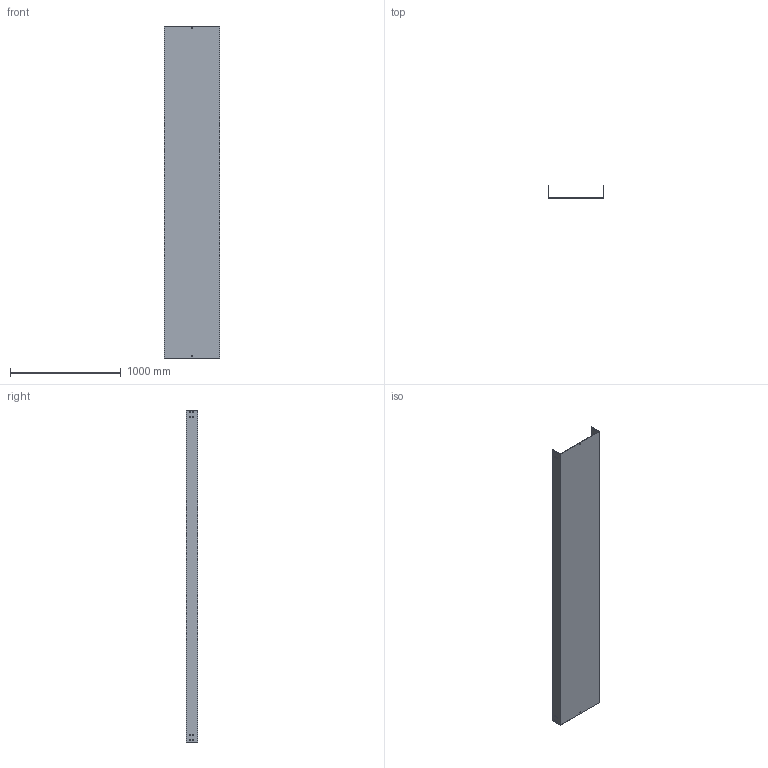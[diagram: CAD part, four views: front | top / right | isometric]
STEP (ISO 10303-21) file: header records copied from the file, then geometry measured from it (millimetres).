
FILE_DESCRIPTION (( 'STEP AP214' ), '1' );
FILE_NAME ('03B3D500.step', '2025-02-21T10:04:16', ( '' ), ( '' ), 'SwSTEP 2.0', 'SolidWorks 2023', '' );
FILE_SCHEMA (( 'AUTOMOTIVE_DESIGN' ));
Length unit declared in the file: millimetre
Products named in the file (1): 03B3D500
Bounding box: 504 x 104 x 3000 mm (x, y, z)
Volume: 7398170.5 mm3; surface area: 4255582 mm2
Topology: 1 solids, 1 shells, 82 faces, 240 edges, 160 vertices
Faces by surface type: plane 82
Entity records: 2759 total; most frequent: CARTESIAN_POINT 483, ORIENTED_EDGE 480, DIRECTION 406, EDGE_CURVE 240, VECTOR 240, LINE 240, VERTEX_POINT 160, EDGE_LOOP 118
